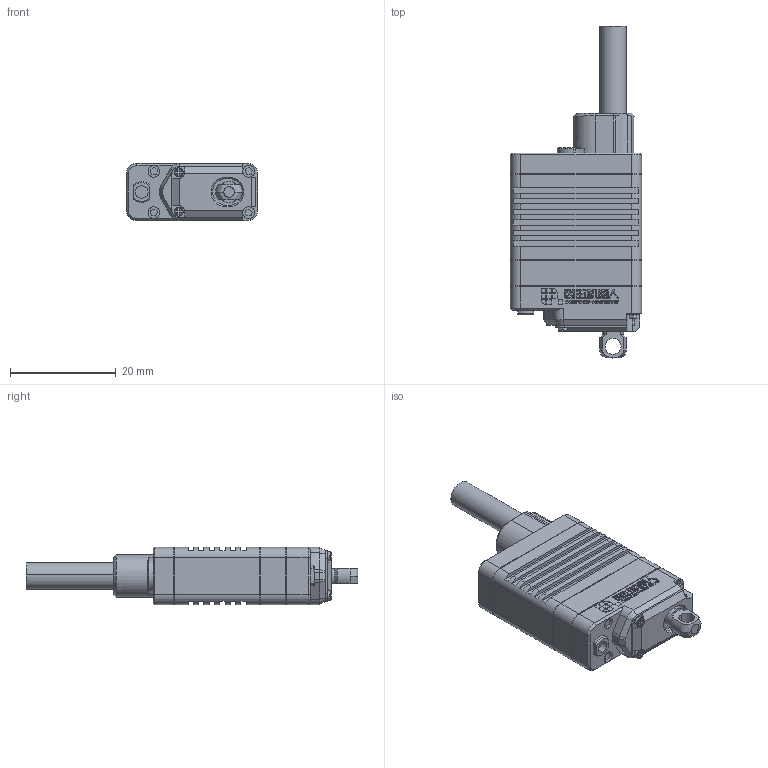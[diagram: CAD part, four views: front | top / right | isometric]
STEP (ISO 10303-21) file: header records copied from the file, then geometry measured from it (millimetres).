
FILE_DESCRIPTION (( 'STEP AP214' ), '1' );
FILE_NAME ('LAS16-0x3D.STEP', '2022-12-28T10:40:16', ( '' ), ( '' ), '', '', '' );
FILE_SCHEMA (( 'AUTOMOTIVE_DESIGN' ));
Length unit declared in the file: millimetre
Products named in the file (4): LAS16-0x3D; ACBO-S30_1.STEP; exA820116-015___________1.STEP; Part1^LAS16-0x3D.STEP
Assembly tree (3 placements, depth 2):
  LAS16-0x3D
    exA820116-015___________1.STEP
    Part1^LAS16-0x3D.STEP
    ACBO-S30_1.STEP
Bounding box: 24.8 x 62.7 x 10.8 mm (x, y, z)
Volume: 9111.1 mm3; surface area: 4379.3 mm2
Topology: 3 solids, 15 shells, 1626 faces, 4289 edges, 2811 vertices
Faces by surface type: plane 935, bspline 450, cylinder 175, cone 66
Entity records: 59955 total; most frequent: CARTESIAN_POINT 15572, ORIENTED_EDGE 8564, DIRECTION 6227, EDGE_CURVE 4282, VERTEX_POINT 2811, VECTOR 2783, LINE 2783, EDGE_LOOP 1773
